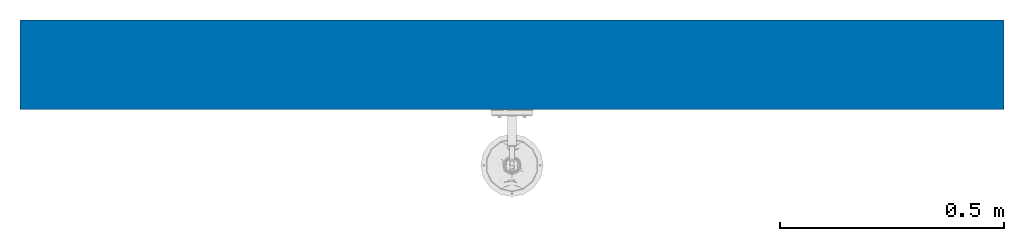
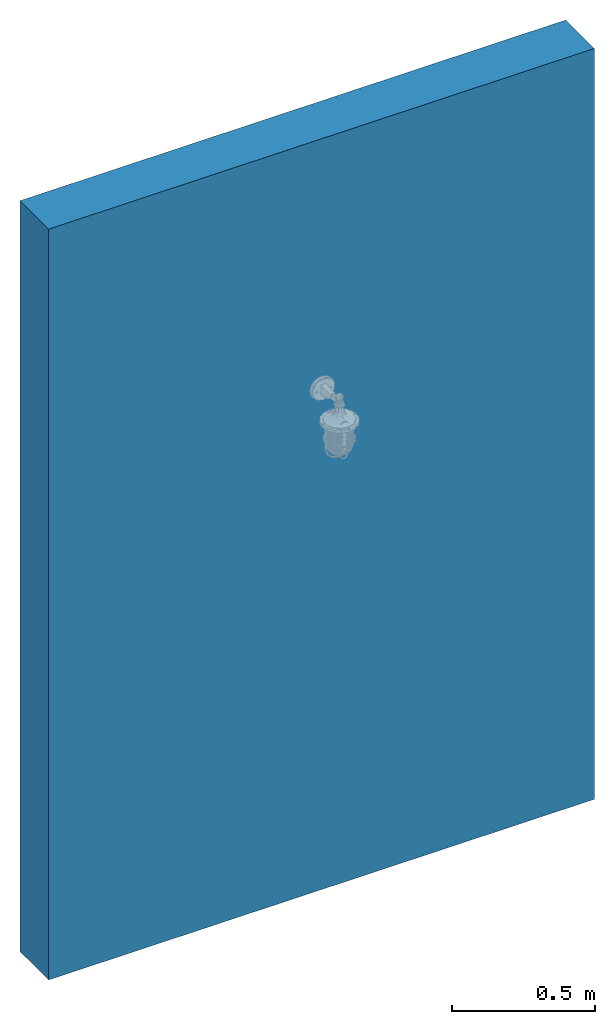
# One storey, incomplete: 1 wall.
"""IFC2X3 building model written with IfcOpenShell, lengths in metres."""

from ifc_helpers import new_model, si_unit, direction, frame, frame_2d, origin, place, context, subcontext, project, spatial, rectangle, extrude, material, layer, layer_set, layer_usage, type_object, element, save


model = new_model("IFC2X3")

# Units and contexts
model_context = context("Model", 3, precision=1e-05, world=origin(), true_north=direction((6.123233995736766e-17, 1.0)))
body_context = subcontext(model_context, "Body", "Model", "MODEL_VIEW")
ifc_project = project(units=[si_unit("LENGTHUNIT", "METRE"), si_unit("AREAUNIT", "SQUARE_METRE")], contexts=[model_context])

# Site, building, storey
site_placement = place(None, origin())
site = spatial("IfcSite", under=ifc_project, at=site_placement, Name="Default", CompositionType="ELEMENT")
building_placement = place(site_placement, origin())
building = spatial("IfcBuilding", under=site, at=building_placement, CompositionType="ELEMENT")
storey_placement = place(building_placement, origin())
storey = spatial("IfcBuildingStorey", under=building, at=storey_placement, Name="Level 1", CompositionType="ELEMENT", Elevation=0.0)

# Wall
ifc_material = material(Name="Default Wall")
ifc_layer = layer(ifc_material, 0.2)
ifc_layer_set = layer_set([ifc_layer], Name="Basic Wall:Wall 20cm2")
ifc_layer_usage = layer_usage(ifc_layer_set, "AXIS2", "NEGATIVE", 0.1)
wall_type = type_object("IfcWallType", Name="Basic Wall:Wall 20cm2", PredefinedType="STANDARD", material=ifc_layer_set)
wall_placement = place(storey_placement, frame((-5.5821241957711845, 0.9545372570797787, 0.0)))
element("IfcWallStandardCase", 1, at=wall_placement, inside=storey, type_object=wall_type, material=ifc_layer_usage, Name="Basic Wall:Wall 20cm2", ObjectType="Basic Wall:Wall 20cm2", context=body_context, shape_type="SweptSolid", body=[
    extrude(rectangle(XDim=2.2000000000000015, YDim=0.2, at=frame_2d((1.1000000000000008, 2.7755575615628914e-17), x_axis=(-1.0, 0.0))), origin(), (0.0, 0.0, 1.0), 3.2),
])

save(model, "model.ifc")
